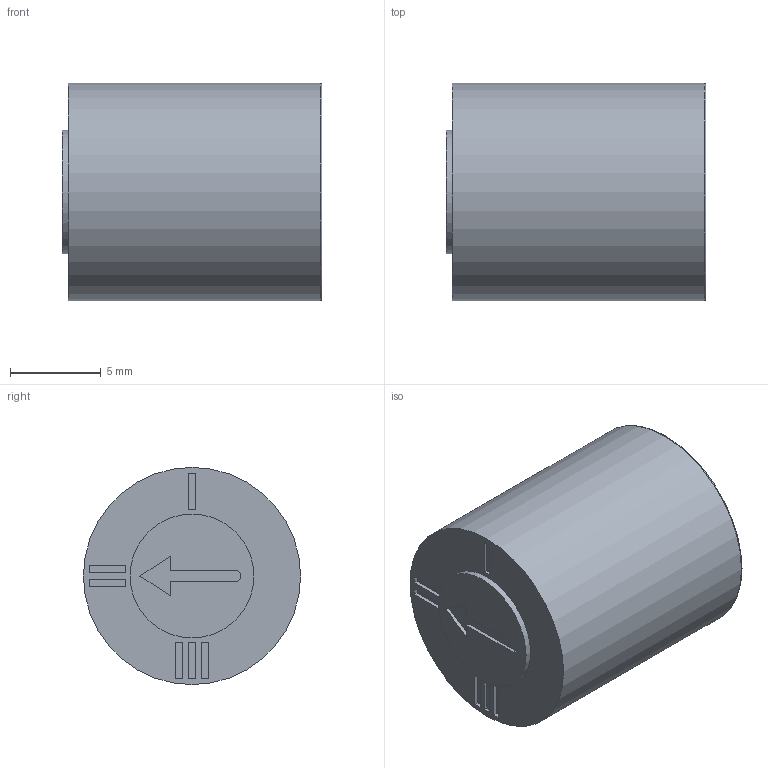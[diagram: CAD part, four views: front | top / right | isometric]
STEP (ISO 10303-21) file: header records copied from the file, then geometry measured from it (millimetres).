
FILE_DESCRIPTION( ( 'STEP AP203' ), ' ' );
FILE_NAME( 'p:/temp/worker_137/2260_1376/app_90_12017012510001384115263260eae72_000000_00_00_000000/format_0/FOS0012(0.35).stp', '2017-01-25T09:00:14', ( '' ), ( '' ), ' ', 'PARTsolutions', ' ' );
FILE_SCHEMA( ( 'CONFIG_CONTROL_DESIGN' ) );
Length unit declared in the file: millimetre
Products named in the file (3): FOS0012(0.35); _FOS0012(0.35)1; _FOS0012(0.35)2
Assembly tree (2 placements, depth 2):
  FOS0012(0.35)
    _FOS0012(0.35)1
    _FOS0012(0.35)2
Bounding box: 14.35 x 12 x 12 mm (x, y, z)
Volume: 1320.9 mm3; surface area: 1243.8 mm2
Topology: 2 solids, 2 shells, 53 faces, 116 edges, 76 vertices
Faces by surface type: plane 43, cylinder 6, cone 3, torus 1
Full cylindrical faces by diameter (mm): 2.621 x1, 3 x1, 6.84 x2, 12 x1
Entity records: 1501 total; most frequent: CARTESIAN_POINT 239, DIRECTION 235, ORIENTED_EDGE 214, EDGE_CURVE 107, LINE 91, VECTOR 91, VERTEX_POINT 76, EDGE_LOOP 73
